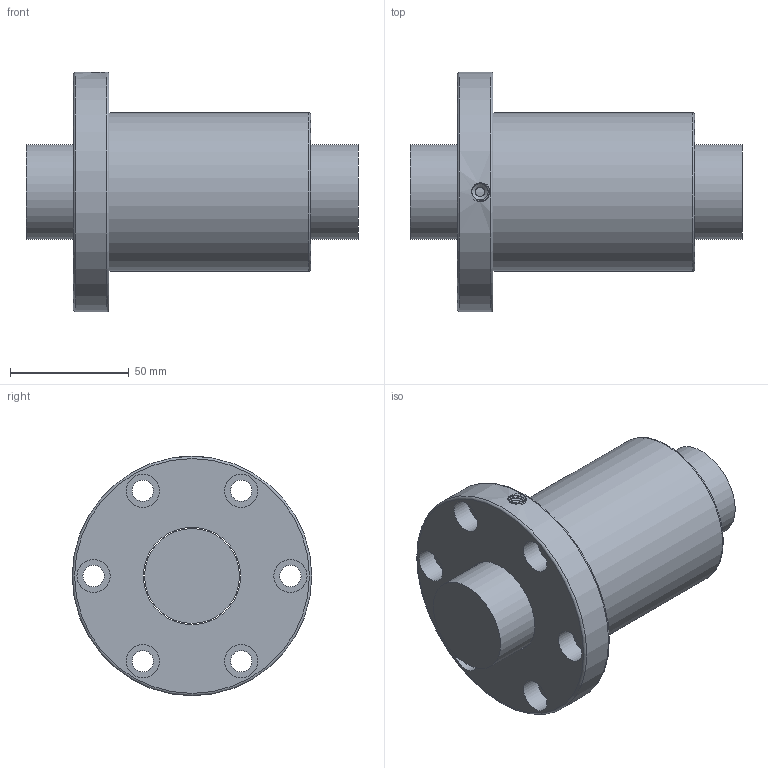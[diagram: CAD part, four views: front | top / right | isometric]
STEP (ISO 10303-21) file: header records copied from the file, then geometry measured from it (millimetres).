
FILE_DESCRIPTION(/* description */ ('Unknown','CAx-IF Rec.Pracs.---Representation and Presentation of Product Manufacturing Information (PMI)---4.0---2014-10-13','CAx-IF Rec.Pracs.---3D Tessellated Geometry---0.4---2014-09-14','2;1'),/* implementation_level */ '2;1');
FILE_NAME(/* name */ 'OFV04005-4.8',/* time_stamp */ '2020-12-08T11:54:48+08:00',/* author */ ('Unknown'),/* organization */ ('Unknown'),/* preprocessor_version */ 'ST-DEVELOPER v16.7',/* originating_system */ 'Solid Edge',/* authorisation */ 'Unknown');
FILE_SCHEMA (('AP242_MANAGED_MODEL_BASED_3D_ENGINEERING_MIM_LF { 1 0 10303 442 1 1 4 }'));
Length unit declared in the file: millimetre
Products named in the file (1): OFV04005-4.8
Bounding box: 140 x 101 x 101 mm (x, y, z)
Volume: 452605.7 mm3; surface area: 71775.8 mm2
Topology: 2 solids, 2 shells, 38 faces, 86 edges, 57 vertices
Faces by surface type: cylinder 20, plane 12, torus 3, bspline 2, cone 1
Full cylindrical faces by diameter (mm): 4 x1, 6.917 x1, 9 x6, 14 x6, 40 x1, 41 x1, 67 x1, 101 x1
Entity records: 2782 total; most frequent: CARTESIAN_POINT 1980, DIRECTION 160, ORIENTED_EDGE 102, EDGE_LOOP 83, FACE_BOUND 83, AXIS2_PLACEMENT_3D 81, EDGE_CURVE 51, VERTEX_POINT 46
